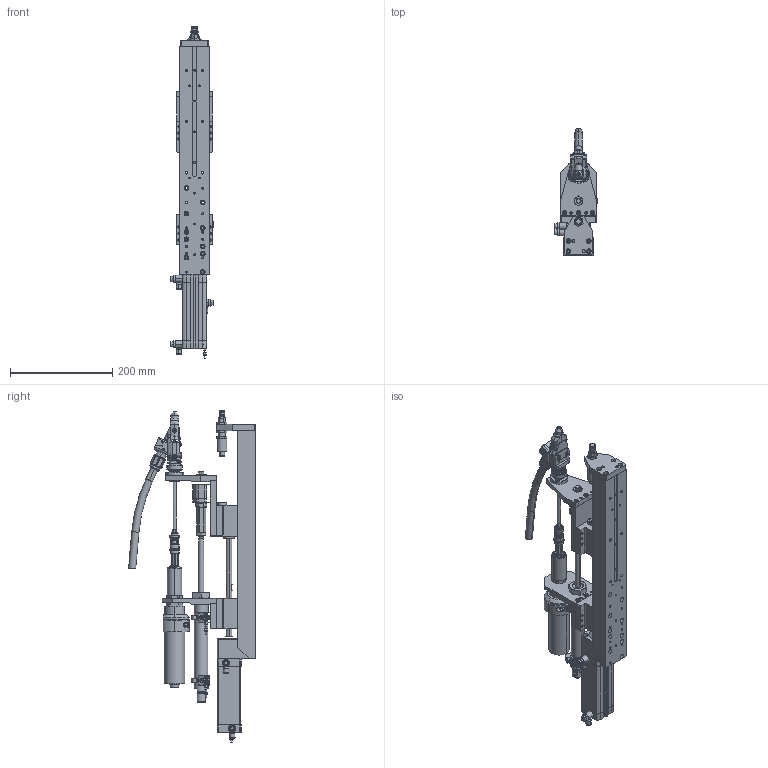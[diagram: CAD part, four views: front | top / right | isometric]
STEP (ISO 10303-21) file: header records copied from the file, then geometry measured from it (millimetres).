
FILE_DESCRIPTION (( 'STEP AP214' ), '1' );
FILE_NAME ('S2AA.STEP', '2026-02-02T16:03:23', ( '' ), ( '' ), 'SwSTEP 2.0', 'SolidWorks 2022', '' );
FILE_SCHEMA (( 'AUTOMOTIVE_DESIGN' ));
Length unit declared in the file: millimetre
Products named in the file (1): S2AA
Bounding box: 85.32 x 247.87 x 648.74 mm (x, y, z)
Surface area: 441640.6 mm2 (no closed solid volume)
Topology: 0 solids, 214 shells, 2290 faces, 8799 edges, 6565 vertices
Faces by surface type: plane 980, cylinder 832, cone 395, bspline 55, torus 26, sphere 2
Entity records: 128785 total; most frequent: CARTESIAN_POINT 31625, DIRECTION 14936, ORIENTED_EDGE 13251, EDGE_CURVE 8790, VERTEX_POINT 6562, AXIS2_PLACEMENT_3D 5519, VECTOR 3898, LINE 3898
